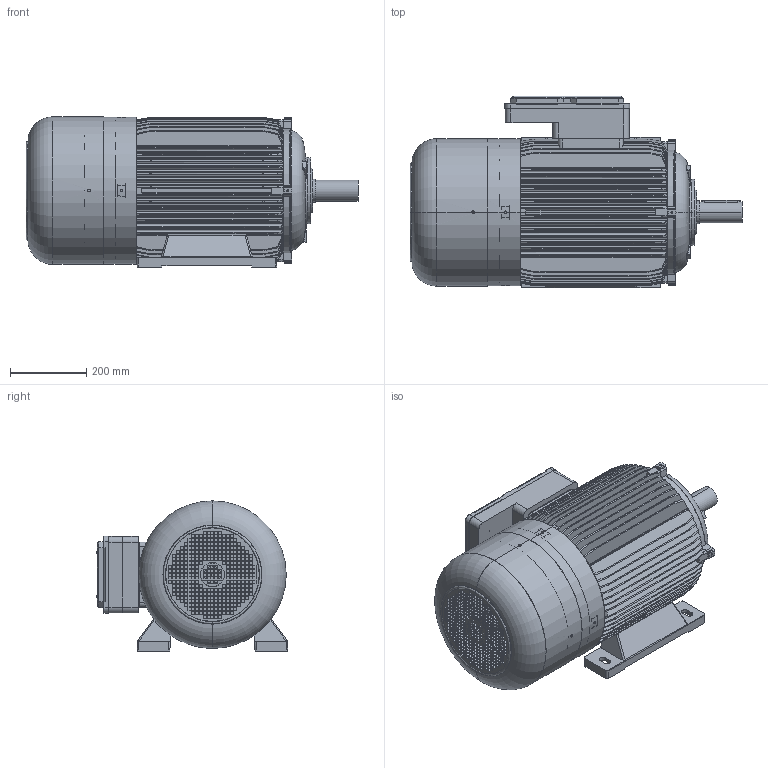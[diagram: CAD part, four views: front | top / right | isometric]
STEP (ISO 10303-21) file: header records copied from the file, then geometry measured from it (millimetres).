
FILE_DESCRIPTION (( 'STEP AP214' ), '1' );
FILE_NAME ('M46NA0010.STEP', '2019-10-11T10:18:16', ( '' ), ( '' ), 'SwSTEP 2.0', 'SolidWorks 2018', '' );
FILE_SCHEMA (( 'AUTOMOTIVE_DESIGN' ));
Length unit declared in the file: millimetre
Products named in the file (12): Scudo Lato Freno P1 BM 200 IEC - D7FF0018; Scatola Morsettiera 225-250 -280 - Completa; Guarnizioni Scatola Morsettiera 225-250-280 - D7C40109; Coperchio Scatola Morsettiera 225-250 - 280 - D7C20109; Scatola Morsettiera 225-250 -280 - D7C10209; Scudo Lato Comando B3 200 - D7E40115; Carcassa IEC 200 B3; M46NA0010; Chiavetta 200-225 2p; Albero BMX 200; Prolunga per cuffia BMX 200; Cuffia SM 200 IEC
Assembly tree (11 placements, depth 3):
  M46NA0010
    Carcassa IEC 200 B3
    Scudo Lato Comando B3 200 - D7E40115
    Scatola Morsettiera 225-250 -280 - Completa
      Scatola Morsettiera 225-250 -280 - D7C10209
      Coperchio Scatola Morsettiera 225-250 - 280 - D7C20109
      Guarnizioni Scatola Morsettiera 225-250-280 - D7C40109
    Scudo Lato Freno P1 BM 200 IEC - D7FF0018
    Cuffia SM 200 IEC
    Prolunga per cuffia BMX 200
    Albero BMX 200
    Chiavetta 200-225 2p
Bounding box: 868.77 x 501 x 393 mm (x, y, z)
Volume: 20332810.5 mm3; surface area: 4392224.9 mm2
Topology: 10 solids, 10 shells, 4019 faces, 11113 edges, 7123 vertices
Faces by surface type: plane 2167, cylinder 799, bspline 501, cone 367, torus 161, sphere 24
Entity records: 167554 total; most frequent: CARTESIAN_POINT 67050, ORIENTED_EDGE 22070, DIRECTION 17659, EDGE_CURVE 11035, VERTEX_POINT 7123, LINE 6861, VECTOR 6861, AXIS2_PLACEMENT_3D 5399
